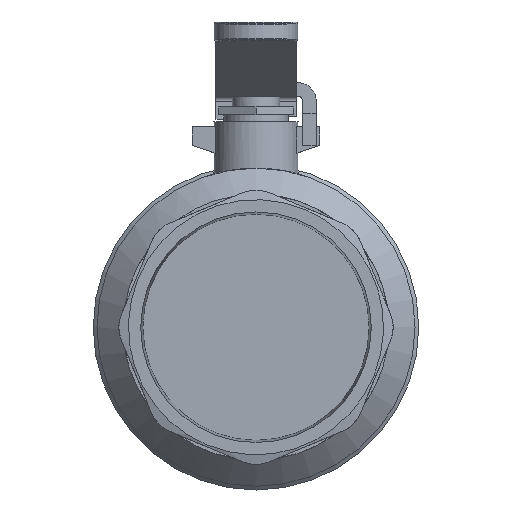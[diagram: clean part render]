
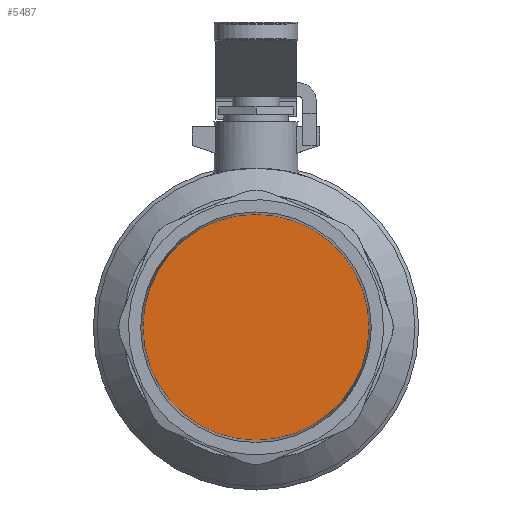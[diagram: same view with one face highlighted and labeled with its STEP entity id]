
A CAD part, left-side view. The second image highlights one B-rep face of the part: STEP entity #5487.
In plain terms, the highlighted free-form (B-spline) face has degree [1, 1] with [2, 2] control points.
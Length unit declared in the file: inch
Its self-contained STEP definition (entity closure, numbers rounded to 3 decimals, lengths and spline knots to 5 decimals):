
#5467=CARTESIAN_POINT('',(1.0166,1.6625,0.));
#5468=VERTEX_POINT('',#5467);
#5469=CARTESIAN_POINT('',(1.0166,0.0,0.));
#5470=DIRECTION('',(1.0,0.0,0.0));
#5471=DIRECTION('',(0.0,1.0,0.0));
#5472=AXIS2_PLACEMENT_3D('',#5469,#5470,#5471);
#5473=CIRCLE('',#5472,1.6625);
#5474=EDGE_CURVE('',#5468,#5468,#5473,.T.);
#5479=CARTESIAN_POINT('',(1.0166,1.6625,1.6625));
#5480=CARTESIAN_POINT('',(1.0166,-1.6625,1.6625));
#5481=CARTESIAN_POINT('',(1.0166,1.6625,-1.6625));
#5482=CARTESIAN_POINT('',(1.0166,-1.6625,-1.6625));
#5483=B_SPLINE_SURFACE_WITH_KNOTS('',1,1,((#5479,#5481),(#5480,#5482)),.UNSPECIFIED.,.F.,.F.,.U.,(2,2),(2,2),(0.0,3.325),(0.0,3.325),.UNSPECIFIED.);
#5484=ORIENTED_EDGE('',*,*,#5474,.F.);
#5485=EDGE_LOOP('',(#5484));
#5486=FACE_OUTER_BOUND('',#5485,.T.);
#5487=ADVANCED_FACE('',(#5486),#5483,.F.);
